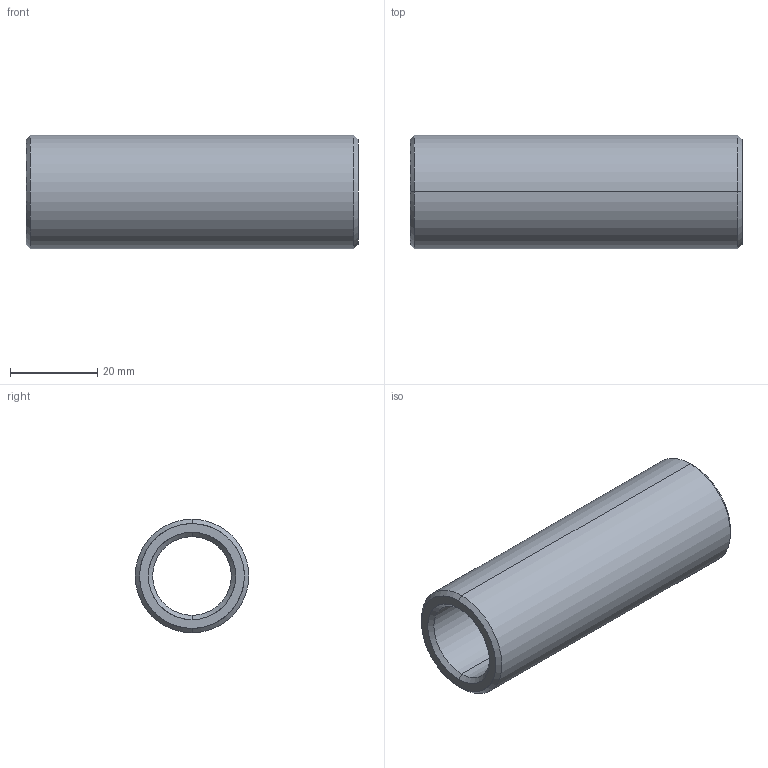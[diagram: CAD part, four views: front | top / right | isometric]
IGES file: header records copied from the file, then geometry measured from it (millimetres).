
Start section: START RECORD GO HERE.
Global section: file name: 352-18X76.igs; native system: DASSAULT SYSTEMES CATIA V5 R20 - www.3ds.com; preprocessor: CATIA Version 5 Release 20 ; author: Utente; organization: NB04-ASUS; date: 20210412.173821; units: millimetre
Bounding box: 76 x 26 x 26 mm (x, y, z)
Surface area: 10904.5 mm2 (no closed solid volume)
Topology: 0 solids, 0 shells, 14 faces, 88 edges, 88 vertices
Faces by surface type: revolution 12, plane 2
